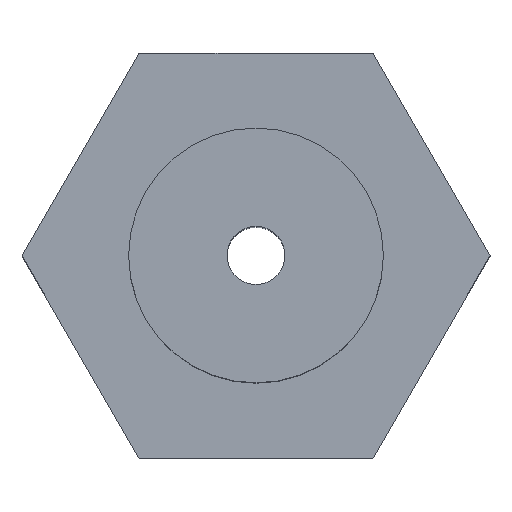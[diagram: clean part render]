
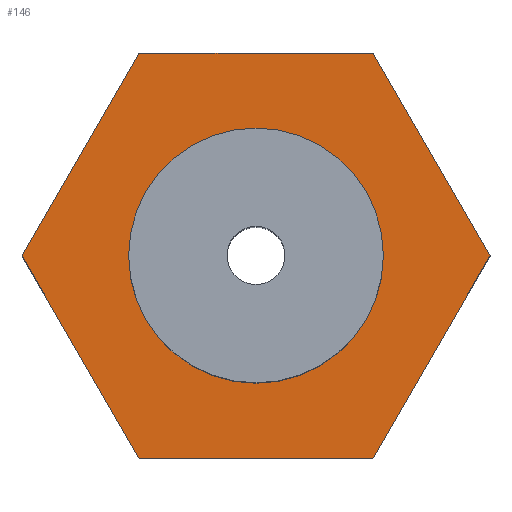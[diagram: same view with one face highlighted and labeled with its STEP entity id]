
A CAD part, top view. The second image highlights one B-rep face of the part: STEP entity #146.
In plain terms, the highlighted planar face has unit normal (0, 0, 1).
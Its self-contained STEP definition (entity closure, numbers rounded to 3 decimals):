
#1 = EDGE_CURVE ( 'NONE', #48, #346, #530, .T. ) ;
#3 = VECTOR ( 'NONE', #422, 1000. ) ;
#15 = CARTESIAN_POINT ( 'NONE',  ( -4.4, 0., 5. ) ) ;
#18 = EDGE_LOOP ( 'NONE', ( #188, #342, #550, #627, #341, #50 ) ) ;
#21 = DIRECTION ( 'NONE',  ( 0.5, 0.866, 0. ) ) ;
#24 = AXIS2_PLACEMENT_3D ( 'NONE', #606, #282, #466 ) ;
#28 = LINE ( 'NONE', #126, #581 ) ;
#29 = CARTESIAN_POINT ( 'NONE',  ( -8.083, 0., 5. ) ) ;
#30 = CARTESIAN_POINT ( 'NONE',  ( 4.041, 7., 5. ) ) ;
#48 = VERTEX_POINT ( 'NONE', #509 ) ;
#50 = ORIENTED_EDGE ( 'NONE', *, *, #80, .T. ) ;
#60 = DIRECTION ( 'NONE',  ( 1., 0., 0. ) ) ;
#62 = CIRCLE ( 'NONE', #482, 4.4 ) ;
#68 = DIRECTION ( 'NONE',  ( 0., 0., 1. ) ) ;
#80 = EDGE_CURVE ( 'NONE', #607, #139, #28, .T. ) ;
#86 = DIRECTION ( 'NONE',  ( 0., 0., 1. ) ) ;
#88 = DIRECTION ( 'NONE',  ( 1., 0., 0. ) ) ;
#109 = CARTESIAN_POINT ( 'NONE',  ( -4.041, -7., 5. ) ) ;
#126 = CARTESIAN_POINT ( 'NONE',  ( -4.041, -7., 5. ) ) ;
#127 = VECTOR ( 'NONE', #404, 1000. ) ;
#135 = CARTESIAN_POINT ( 'NONE',  ( 4.041, -7., 5. ) ) ;
#136 = LINE ( 'NONE', #333, #411 ) ;
#139 = VERTEX_POINT ( 'NONE', #135 ) ;
#146 = ADVANCED_FACE ( 'NONE', ( #331, #473 ), #529, .T. ) ;
#150 = EDGE_LOOP ( 'NONE', ( #572, #523 ) ) ;
#152 = CARTESIAN_POINT ( 'NONE',  ( 0., 0., 5. ) ) ;
#188 = ORIENTED_EDGE ( 'NONE', *, *, #242, .T. ) ;
#193 = VERTEX_POINT ( 'NONE', #29 ) ;
#224 = LINE ( 'NONE', #320, #3 ) ;
#237 = VERTEX_POINT ( 'NONE', #358 ) ;
#242 = EDGE_CURVE ( 'NONE', #139, #294, #597, .T. ) ;
#282 = DIRECTION ( 'NONE',  ( 0., 0., 1. ) ) ;
#294 = VERTEX_POINT ( 'NONE', #362 ) ;
#311 = AXIS2_PLACEMENT_3D ( 'NONE', #524, #86, #479 ) ;
#313 = EDGE_CURVE ( 'NONE', #294, #335, #224, .T. ) ;
#320 = CARTESIAN_POINT ( 'NONE',  ( 8.083, 0., 5. ) ) ;
#331 = FACE_BOUND ( 'NONE', #150, .T. ) ;
#333 = CARTESIAN_POINT ( 'NONE',  ( -4.041, 7., 5. ) ) ;
#335 = VERTEX_POINT ( 'NONE', #30 ) ;
#340 = EDGE_CURVE ( 'NONE', #335, #237, #354, .T. ) ;
#341 = ORIENTED_EDGE ( 'NONE', *, *, #357, .T. ) ;
#342 = ORIENTED_EDGE ( 'NONE', *, *, #313, .T. ) ;
#346 = VERTEX_POINT ( 'NONE', #15 ) ;
#354 = LINE ( 'NONE', #614, #486 ) ;
#357 = EDGE_CURVE ( 'NONE', #193, #607, #596, .T. ) ;
#358 = CARTESIAN_POINT ( 'NONE',  ( -4.041, 7., 5. ) ) ;
#362 = CARTESIAN_POINT ( 'NONE',  ( 8.083, 0., 5. ) ) ;
#372 = DIRECTION ( 'NONE',  ( -1., 0., 0. ) ) ;
#377 = EDGE_CURVE ( 'NONE', #346, #48, #62, .T. ) ;
#404 = DIRECTION ( 'NONE',  ( 0.5, -0.866, 0. ) ) ;
#411 = VECTOR ( 'NONE', #525, 1000. ) ;
#422 = DIRECTION ( 'NONE',  ( -0.5, 0.866, 0. ) ) ;
#466 = DIRECTION ( 'NONE',  ( 1., 0., 0. ) ) ;
#473 = FACE_OUTER_BOUND ( 'NONE', #18, .T. ) ;
#479 = DIRECTION ( 'NONE',  ( 1., 0., 0. ) ) ;
#482 = AXIS2_PLACEMENT_3D ( 'NONE', #152, #68, #60 ) ;
#486 = VECTOR ( 'NONE', #372, 1000. ) ;
#499 = CARTESIAN_POINT ( 'NONE',  ( 4.041, -7., 5. ) ) ;
#509 = CARTESIAN_POINT ( 'NONE',  ( 4.4, 0., 5. ) ) ;
#523 = ORIENTED_EDGE ( 'NONE', *, *, #1, .F. ) ;
#524 = CARTESIAN_POINT ( 'NONE',  ( 0., 0., 5. ) ) ;
#525 = DIRECTION ( 'NONE',  ( -0.5, -0.866, 0. ) ) ;
#529 = PLANE ( 'NONE',  #311 ) ;
#530 = CIRCLE ( 'NONE', #24, 4.4 ) ;
#550 = ORIENTED_EDGE ( 'NONE', *, *, #340, .T. ) ;
#561 = EDGE_CURVE ( 'NONE', #237, #193, #136, .T. ) ;
#572 = ORIENTED_EDGE ( 'NONE', *, *, #377, .F. ) ;
#581 = VECTOR ( 'NONE', #88, 1000. ) ;
#591 = CARTESIAN_POINT ( 'NONE',  ( -8.083, 0., 5. ) ) ;
#595 = VECTOR ( 'NONE', #21, 1000. ) ;
#596 = LINE ( 'NONE', #591, #127 ) ;
#597 = LINE ( 'NONE', #499, #595 ) ;
#606 = CARTESIAN_POINT ( 'NONE',  ( 0., 0., 5. ) ) ;
#607 = VERTEX_POINT ( 'NONE', #109 ) ;
#614 = CARTESIAN_POINT ( 'NONE',  ( 4.041, 7., 5. ) ) ;
#627 = ORIENTED_EDGE ( 'NONE', *, *, #561, .T. ) ;
